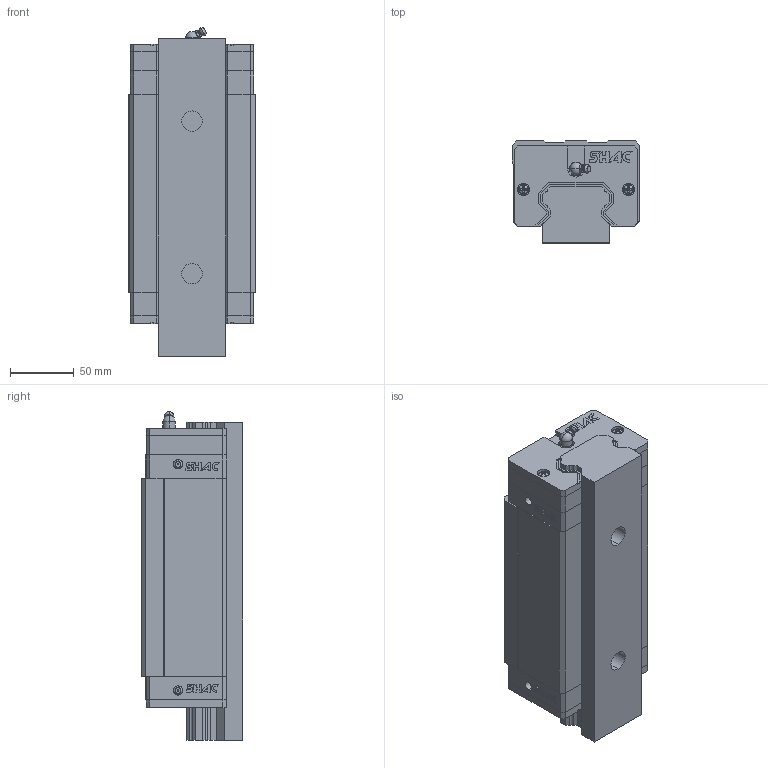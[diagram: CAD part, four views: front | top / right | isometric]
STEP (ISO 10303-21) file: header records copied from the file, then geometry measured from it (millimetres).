
FILE_DESCRIPTION (( 'STEP AP214' ), '1' );
FILE_NAME ('STP_GHH55HA_(E2)自润式_(R)上锁式_刮油片＋防尘条_250_250_1_GHH55HA_GHH55HA.step', '2020-06-27T09:39:13', ( 'IT Division' ), ( 'IT' ), 'SwSTEP 2.0', 'SolidWorks 2016', '' );
FILE_SCHEMA (( 'AUTOMOTIVE_DESIGN' ));
Length unit declared in the file: millimetre
Products named in the file (3): STP_GHH55HA_(E2)自润式_(R)上锁式_刮油片＋防尘条_250_250_1_GHH55HA_GHH55HA_2; STP_GHH55HA_(E2)自润式_(R)上锁式_刮油片＋防尘条_250_250_1_GHH55HA_GHH55HA; STP_GHH55HA_(E2)自润式_(R)上锁式_刮油片＋防尘条_250_250_1_GHH55HA_GHH55HA_1
Assembly tree (2 placements, depth 2):
  STP_GHH55HA_(E2)自润式_(R)上锁式_刮油片＋防尘条_250_250_1_GHH55HA_GHH55HA
    STP_GHH55HA_(E2)自润式_(R)上锁式_刮油片＋防尘条_250_250_1_GHH55HA_GHH55HA_1
    STP_GHH55HA_(E2)自润式_(R)上锁式_刮油片＋防尘条_250_250_1_GHH55HA_GHH55HA_2
Bounding box: 100 x 80 x 258.48 mm (x, y, z)
Volume: 1595174.6 mm3; surface area: 206765.1 mm2
Topology: 8 solids, 8 shells, 850 faces, 2277 edges, 1494 vertices
Faces by surface type: plane 626, cylinder 158, cone 31, torus 25, sphere 10
Entity records: 29299 total; most frequent: CARTESIAN_POINT 4788, ORIENTED_EDGE 4530, DIRECTION 4404, EDGE_CURVE 2265, LINE 1764, VECTOR 1764, VERTEX_POINT 1492, AXIS2_PLACEMENT_3D 1320
